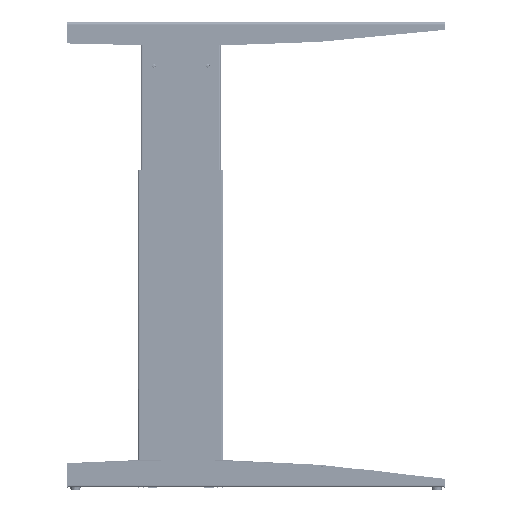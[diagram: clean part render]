
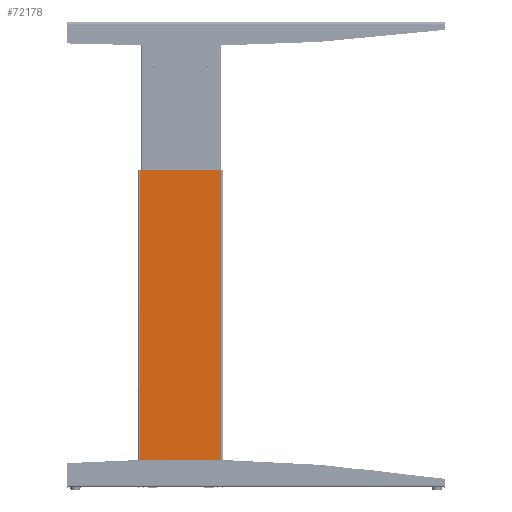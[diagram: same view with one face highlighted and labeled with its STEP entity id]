
A CAD part, left-side view. The second image highlights one B-rep face of the part: STEP entity #72178.
In plain terms, the highlighted planar face has unit normal (-1, 0, 0).
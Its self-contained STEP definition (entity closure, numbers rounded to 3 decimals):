
#1095 = FACE_OUTER_BOUND ( 'NONE', #54373, .T. ) ;
#4705 = EDGE_CURVE ( 'NONE', #101019, #22248, #36699, .T. ) ;
#6238 = ORIENTED_EDGE ( 'NONE', *, *, #85773, .T. ) ;
#7644 = DIRECTION ( 'NONE',  ( 0., -1., 0. ) ) ;
#11709 = EDGE_CURVE ( 'NONE', #58167, #22248, #58770, .T. ) ;
#11903 = CARTESIAN_POINT ( 'NONE',  ( 0., 82.5, 612. ) ) ;
#20338 = PLANE ( 'NONE',  #80692 ) ;
#22248 = VERTEX_POINT ( 'NONE', #38471 ) ;
#24806 = LINE ( 'NONE', #51416, #89181 ) ;
#30026 = CARTESIAN_POINT ( 'NONE',  ( 0., -82.5, 2. ) ) ;
#36699 = LINE ( 'NONE', #51155, #53758 ) ;
#38446 = DIRECTION ( 'NONE',  ( 0., 1., 0. ) ) ;
#38471 = CARTESIAN_POINT ( 'NONE',  ( 0., -78.85, 612. ) ) ;
#41715 = CARTESIAN_POINT ( 'NONE',  ( 0., -78.85, 2. ) ) ;
#44201 = VECTOR ( 'NONE', #38446, 1000. ) ;
#45180 = ORIENTED_EDGE ( 'NONE', *, *, #73522, .F. ) ;
#48189 = DIRECTION ( 'NONE',  ( 0., 0., 1. ) ) ;
#50338 = DIRECTION ( 'NONE',  ( 0., 0., -1. ) ) ;
#51155 = CARTESIAN_POINT ( 'NONE',  ( 0., -78.85, 612. ) ) ;
#51416 = CARTESIAN_POINT ( 'NONE',  ( 0., 78.85, 2. ) ) ;
#53758 = VECTOR ( 'NONE', #48189, 1000. ) ;
#54373 = EDGE_LOOP ( 'NONE', ( #84582, #6238, #45180, #75106 ) ) ;
#58167 = VERTEX_POINT ( 'NONE', #74000 ) ;
#58770 = LINE ( 'NONE', #108635, #71908 ) ;
#62950 = DIRECTION ( 'NONE',  ( 0., -1., 0. ) ) ;
#69731 = VERTEX_POINT ( 'NONE', #84909 ) ;
#71908 = VECTOR ( 'NONE', #7644, 1000. ) ;
#72178 = ADVANCED_FACE ( 'NONE', ( #1095 ), #20338, .T. ) ;
#73522 = EDGE_CURVE ( 'NONE', #101019, #69731, #107368, .T. ) ;
#74000 = CARTESIAN_POINT ( 'NONE',  ( 0., 78.85, 612. ) ) ;
#75106 = ORIENTED_EDGE ( 'NONE', *, *, #4705, .T. ) ;
#80692 = AXIS2_PLACEMENT_3D ( 'NONE', #11903, #104508, #62950 ) ;
#84582 = ORIENTED_EDGE ( 'NONE', *, *, #11709, .F. ) ;
#84909 = CARTESIAN_POINT ( 'NONE',  ( 0., 78.85, 2. ) ) ;
#85773 = EDGE_CURVE ( 'NONE', #58167, #69731, #24806, .T. ) ;
#89181 = VECTOR ( 'NONE', #50338, 1000. ) ;
#101019 = VERTEX_POINT ( 'NONE', #41715 ) ;
#104508 = DIRECTION ( 'NONE',  ( -1., 0., 0. ) ) ;
#107368 = LINE ( 'NONE', #30026, #44201 ) ;
#108635 = CARTESIAN_POINT ( 'NONE',  ( 0., 82.5, 612. ) ) ;
